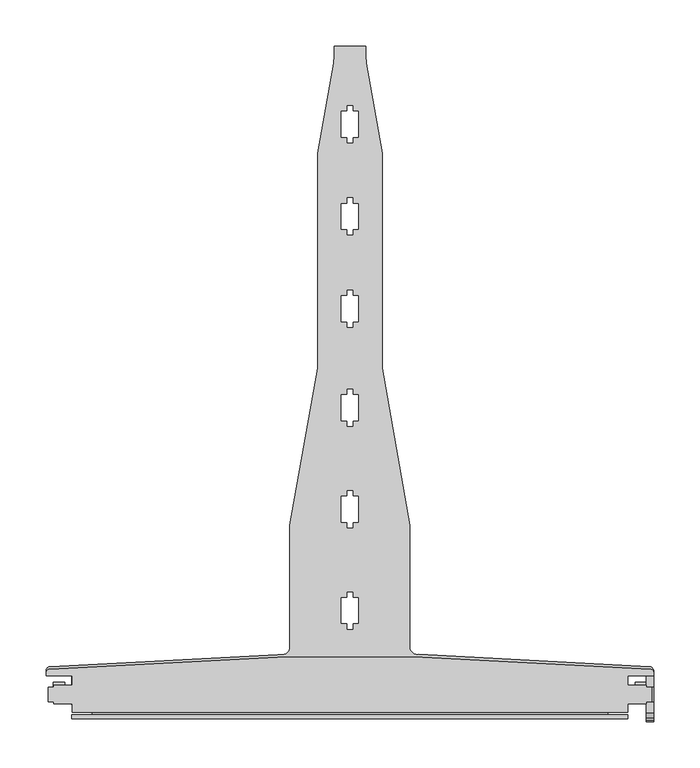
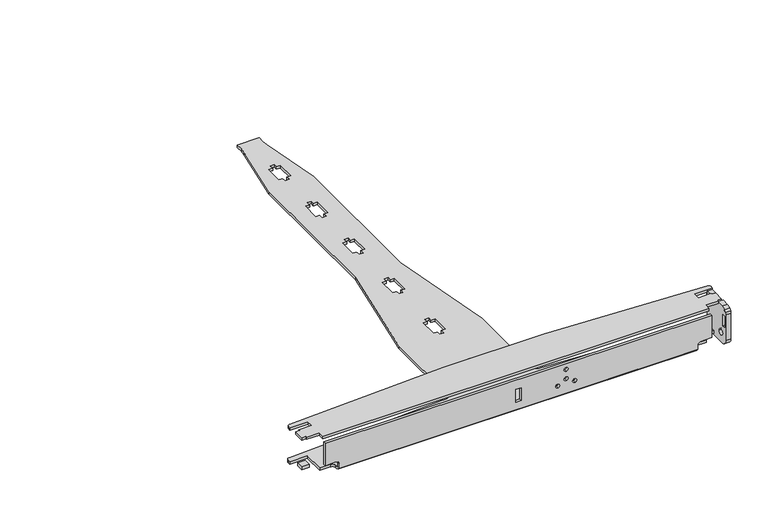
"""IFC4 building model written with IfcOpenShell, lengths in millimetres: proxy geometry, d&b SL-Series XSLi SUB Mounting Frame : XSLi SUB Mounting Frame."""

from ifc_helpers import new_model, si_unit, point, frame, frame_2d, origin, place, context, project, spatial, polyline, circle_curve, trimmed, segment, composite_curve, outline, extrude, source, transform, mapped, element, save
from ifc_brep_helpers import plane_surface, cylinder_surface, revolved_surface, advanced_brep


def communication_devices_f2b9ca2b(model_context):
    return source(origin(), model_context, "Body", "SolidModel", [
        advanced_brep(
        [(279.5, -3.0, -13.5), (-279.5, -3.0, -13.5), (-279.5, 0.0, -13.5), (-284.5, 5.0, -13.5), (-301.5, 5.0, -13.5), (-301.5, 37.5, -13.5), (-329.5, 37.5, -13.5), (-329.5, 41.5910151, -13.5), (-324.7616798, 46.5841628, -13.5), (-78.3128241, 59.5, -13.5), (-73.0, 59.5, -13.5), (-65.0, 67.5, -13.5), (-65.0, 200.0, -13.5), (-35.0, 370.1384546, -13.5), (-35.0, 603.0424941, -13.5), (-17.7596123, 700.8175911, -13.5), (-17.0, 709.5, -13.5), (-17.0, 719.5, -13.5), (17.0, 719.5, -13.5), (17.0, 709.5, -13.5), (17.7596123, 700.8175911, -13.5), (35.0, 603.0424941, -13.5), (35.0, 370.1384546, -13.5), (65.0, 200.0, -13.5), (65.0, 67.5, -13.5), (74.7244138, 59.6880606, -13.5), (324.7616798, 46.5841628, -13.5), (329.5, 41.5910151, -13.5), (329.5, 37.5, -13.5), (301.5, 37.5, -13.5), (301.5, 5.0, -13.5), (284.5, 5.0, -13.5), (279.5, 0.0, -13.5), (-3.0, 341.25, -13.5), (-9.25, 341.25, -13.5), (-9.25, 313.25, -13.5), (-3.0, 313.25, -13.5), (-3.0, 307.25, -13.5), (3.0, 307.25, -13.5), (3.0, 313.25, -13.5), (9.25, 313.25, -13.5), (9.25, 341.25, -13.5), (3.0, 341.25, -13.5), (3.0, 347.25, -13.5), (-3.0, 347.25, -13.5), (-3.0, 231.25, -13.5), (-9.25, 231.25, -13.5), (-9.25, 203.25, -13.5), (-3.0, 203.25, -13.5), (-3.0, 197.25, -13.5), (3.0, 197.25, -13.5), (3.0, 203.25, -13.5), (9.25, 203.25, -13.5), (9.25, 231.25, -13.5), (3.0, 231.25, -13.5), (3.0, 237.25, -13.5), (-3.0, 237.25, -13.5), (-3.0, 121.25, -13.5), (-9.25, 121.25, -13.5), (-9.25, 93.25, -13.5), (-3.0, 93.25, -13.5), (-3.0, 87.25, -13.5), (3.0, 87.25, -13.5), (3.0, 93.25, -13.5), (9.25, 93.25, -13.5), (9.25, 121.25, -13.5), (3.0, 121.25, -13.5), (3.0, 127.25, -13.5), (-3.0, 127.25, -13.5), (-3.0, 648.75, -13.5), (-9.25, 648.75, -13.5), (-9.25, 620.75, -13.5), (-3.0, 620.75, -13.5), (-3.0, 614.75, -13.5), (3.0, 614.75, -13.5), (3.0, 620.75, -13.5), (9.25, 620.75, -13.5), (9.25, 648.75, -13.5), (3.0, 648.75, -13.5), (3.0, 654.75, -13.5), (-3.0, 654.75, -13.5), (-3.0, 548.75, -13.5), (-9.25, 548.75, -13.5), (-9.25, 520.75, -13.5), (-3.0, 520.75, -13.5), (-3.0, 514.75, -13.5), (3.0, 514.75, -13.5), (3.0, 520.75, -13.5), (9.25, 520.75, -13.5), (9.25, 548.75, -13.5), (3.0, 548.75, -13.5), (3.0, 554.75, -13.5), (-3.0, 554.75, -13.5), (-3.0, 448.75, -13.5), (-9.25, 448.75, -13.5), (-9.25, 420.75, -13.5), (-3.0, 420.75, -13.5), (-3.0, 414.75, -13.5), (3.0, 414.75, -13.5), (3.0, 420.75, -13.5), (9.25, 420.75, -13.5), (9.25, 448.75, -13.5), (3.0, 448.75, -13.5), (3.0, 454.75, -13.5), (-3.0, 454.75, -13.5), (279.5, -3.0, -9.5), (279.5, 0.0, -9.5), (284.5, 5.0, -9.5), (301.5, 5.0, -9.5), (301.5, 37.5, -9.5), (329.5, 37.5, -9.5), (329.5, 41.5910151, -9.5), (324.7616798, 46.5841628, -9.5), (74.7244138, 59.6880606, -9.5), (65.0, 67.5, -9.5), (65.0, 200.0, -9.5), (35.0, 370.1384546, -9.5), (35.0, 603.0424941, -9.5), (17.7596123, 700.8175911, -9.5), (17.0, 709.5, -9.5), (17.0, 719.5, -9.5), (-17.0, 719.5, -9.5), (-17.0, 709.5, -9.5), (-17.7596123, 700.8175911, -9.5), (-35.0, 603.0424941, -9.5), (-35.0, 370.1384546, -9.5), (-65.0, 200.0, -9.5), (-65.0, 67.5, -9.5), (-73.0, 59.5, -9.5), (-78.3128241, 59.5, -9.5), (-324.7616798, 46.5841628, -9.5), (-329.5, 41.5910151, -9.5), (-329.5, 37.5, -9.5), (-301.5, 37.5, -9.5), (-301.5, 5.0, -9.5), (-284.5, 5.0, -9.5), (-279.5, 0.0, -9.5), (-279.5, -3.0, -9.5), (-3.0, 341.25, -9.5), (-3.0, 347.25, -9.5), (3.0, 347.25, -9.5), (3.0, 341.25, -9.5), (9.25, 341.25, -9.5), (9.25, 313.25, -9.5), (3.0, 313.25, -9.5), (3.0, 307.25, -9.5), (-3.0, 307.25, -9.5), (-3.0, 313.25, -9.5), (-9.25, 313.25, -9.5), (-9.25, 341.25, -9.5), (-3.0, 231.25, -9.5), (-3.0, 237.25, -9.5), (3.0, 237.25, -9.5), (3.0, 231.25, -9.5), (9.25, 231.25, -9.5), (9.25, 203.25, -9.5), (3.0, 203.25, -9.5), (3.0, 197.25, -9.5), (-3.0, 197.25, -9.5), (-3.0, 203.25, -9.5), (-9.25, 203.25, -9.5), (-9.25, 231.25, -9.5), (-3.0, 121.25, -9.5), (-3.0, 127.25, -9.5), (3.0, 127.25, -9.5), (3.0, 121.25, -9.5), (9.25, 121.25, -9.5), (9.25, 93.25, -9.5), (3.0, 93.25, -9.5), (3.0, 87.25, -9.5), (-3.0, 87.25, -9.5), (-3.0, 93.25, -9.5), (-9.25, 93.25, -9.5), (-9.25, 121.25, -9.5), (-3.0, 648.75, -9.5), (-3.0, 654.75, -9.5), (3.0, 654.75, -9.5), (3.0, 648.75, -9.5), (9.25, 648.75, -9.5), (9.25, 620.75, -9.5), (3.0, 620.75, -9.5), (3.0, 614.75, -9.5), (-3.0, 614.75, -9.5), (-3.0, 620.75, -9.5), (-9.25, 620.75, -9.5), (-9.25, 648.75, -9.5), (-3.0, 548.75, -9.5), (-3.0, 554.75, -9.5), (3.0, 554.75, -9.5), (3.0, 548.75, -9.5), (9.25, 548.75, -9.5), (9.25, 520.75, -9.5), (3.0, 520.75, -9.5), (3.0, 514.75, -9.5), (-3.0, 514.75, -9.5), (-3.0, 520.75, -9.5), (-9.25, 520.75, -9.5), (-9.25, 548.75, -9.5), (-3.0, 448.75, -9.5), (-3.0, 454.75, -9.5), (3.0, 454.75, -9.5), (3.0, 448.75, -9.5), (9.25, 448.75, -9.5), (9.25, 420.75, -9.5), (3.0, 420.75, -9.5), (3.0, 414.75, -9.5), (-3.0, 414.75, -9.5), (-3.0, 420.75, -9.5), (-9.25, 420.75, -9.5), (-9.25, 448.75, -9.5), (-301.5, -10.0, 40.5), (-301.5, -10.0, 3.5), (-284.5, -10.0, 3.5), (-279.5, -10.0, -1.5), (-279.5, -10.0, -8.5), (279.5, -10.0, -8.5), (279.5, -10.0, -1.5), (284.5, -10.0, 3.5), (301.5, -10.0, 3.5), (301.5, -10.0, 40.5), (74.4934506, -10.0, 27.5877903), (74.4934506, -10.0, 33.6005195), (74.4934506, -10.0, 12.1878093), (74.4934506, -10.0, 18.2005386), (61.1905696, -10.0, 4.6096843), (61.1905696, -10.0, 10.6224136), (87.7963317, -10.0, 4.6096843), (87.7963317, -10.0, 10.6224136), (4.25, -10.0, 25.0), (4.25, -10.0, 4.0), (-4.25, -10.0, 4.0), (-4.25, -10.0, 25.0), (-301.5, -6.0, 40.5), (301.5, -6.0, 40.5), (301.5, -6.0, 3.5), (284.5, -6.0, 3.5), (279.5, -6.0, -1.5), (279.5, -6.0, -8.5), (-279.5, -6.0, -8.5), (-279.5, -6.0, -1.5), (-284.5, -6.0, 3.5), (-301.5, -6.0, 3.5), (74.4934506, -6.0, 27.5877903), (74.4934506, -6.0, 33.6005195), (74.4934506, -6.0, 12.1878093), (74.4934506, -6.0, 18.2005386), (61.1905696, -6.0, 4.6096843), (61.1905696, -6.0, 10.6224136), (87.7963317, -6.0, 4.6096843), (87.7963317, -6.0, 10.6224136), (4.25, -6.0, 25.0), (-4.25, -6.0, 25.0), (-4.25, -6.0, 4.0), (4.25, -6.0, 4.0), (279.5, -3.0, -12.5), (-279.5, -3.0, -12.5), (-279.5, -3.0, -8.5), (279.5, -3.0, -8.5)],
        [
            (0, 1),
            (1, 2),
            (2, 3, circle_curve(frame((-284.5, 0.0, -13.5), z_axis=(0.0, 0.0, 1.0), x_axis=(-1.0, 0.0, 0.0)), 5.0)),
            (3, 4),
            (4, 5),
            (5, 6),
            (6, 7),
            (7, 8, circle_curve(frame((-324.5, 41.5910151, -13.5), z_axis=(0.0, 0.0, -1.0), x_axis=(-1.0, 0.0, 0.0)), 5.0)),
            (8, 9),
            (9, 10),
            (10, 11, circle_curve(frame((-73.0, 67.5, -13.5), z_axis=(0.0, 0.0, 1.0), x_axis=(-1.0, 0.0, 0.0)), 8.0)),
            (11, 12),
            (12, 13),
            (13, 14),
            (14, 15),
            (15, 16, circle_curve(frame((-67.0, 709.5, -13.5), z_axis=(0.0, 0.0, 1.0), x_axis=(-1.0, 0.0, 0.0)), 50.0)),
            (16, 17),
            (17, 18),
            (18, 19),
            (19, 20, circle_curve(frame((67.0, 709.5, -13.5), z_axis=(0.0, 0.0, 1.0), x_axis=(-1.0, 0.0, 0.0)), 50.0)),
            (20, 21),
            (21, 22),
            (22, 23),
            (23, 24),
            (24, 25, circle_curve(frame((73.0, 67.5, -13.5), z_axis=(0.0, 0.0, 1.0), x_axis=(-1.0, 0.0, 0.0)), 8.0)),
            (25, 26),
            (26, 27, circle_curve(frame((324.5, 41.5910151, -13.5), z_axis=(0.0, 0.0, -1.0), x_axis=(-1.0, 0.0, 0.0)), 5.0)),
            (27, 28),
            (28, 29),
            (29, 30),
            (30, 31),
            (31, 32, circle_curve(frame((284.5, 0.0, -13.5), z_axis=(0.0, 0.0, 1.0), x_axis=(-1.0, 0.0, 0.0)), 5.0)),
            (32, 0),
            (33, 34),
            (34, 35),
            (35, 36),
            (36, 37),
            (37, 38),
            (38, 39),
            (39, 40),
            (40, 41),
            (41, 42),
            (42, 43),
            (43, 44),
            (44, 33),
            (45, 46),
            (46, 47),
            (47, 48),
            (48, 49),
            (49, 50),
            (50, 51),
            (51, 52),
            (52, 53),
            (53, 54),
            (54, 55),
            (55, 56),
            (56, 45),
            (57, 58),
            (58, 59),
            (59, 60),
            (60, 61),
            (61, 62),
            (62, 63),
            (63, 64),
            (64, 65),
            (65, 66),
            (66, 67),
            (67, 68),
            (68, 57),
            (69, 70),
            (70, 71),
            (71, 72),
            (72, 73),
            (73, 74),
            (74, 75),
            (75, 76),
            (76, 77),
            (77, 78),
            (78, 79),
            (79, 80),
            (80, 69),
            (81, 82),
            (82, 83),
            (83, 84),
            (84, 85),
            (85, 86),
            (86, 87),
            (87, 88),
            (88, 89),
            (89, 90),
            (90, 91),
            (91, 92),
            (92, 81),
            (93, 94),
            (94, 95),
            (95, 96),
            (96, 97),
            (97, 98),
            (98, 99),
            (99, 100),
            (100, 101),
            (101, 102),
            (102, 103),
            (103, 104),
            (104, 93),
            (105, 106),
            (106, 107, circle_curve(frame((284.5, 0.0, -9.5), z_axis=(0.0, 0.0, -1.0), x_axis=(-1.0, 0.0, 0.0)), 5.0)),
            (107, 108),
            (108, 109),
            (109, 110),
            (110, 111),
            (111, 112, circle_curve(frame((324.5, 41.5910151, -9.5), z_axis=(0.0, 0.0, 1.0), x_axis=(-1.0, 0.0, 0.0)), 5.0)),
            (112, 113),
            (113, 114, circle_curve(frame((73.0, 67.5, -9.5), z_axis=(0.0, 0.0, -1.0), x_axis=(-1.0, 0.0, 0.0)), 8.0)),
            (114, 115),
            (115, 116),
            (116, 117),
            (117, 118),
            (118, 119, circle_curve(frame((67.0, 709.5, -9.5), z_axis=(0.0, 0.0, -1.0), x_axis=(-1.0, 0.0, 0.0)), 50.0)),
            (119, 120),
            (120, 121),
            (121, 122),
            (122, 123, circle_curve(frame((-67.0, 709.5, -9.5), z_axis=(0.0, 0.0, -1.0), x_axis=(-1.0, 0.0, 0.0)), 50.0)),
            (123, 124),
            (124, 125),
            (125, 126),
            (126, 127),
            (127, 128, circle_curve(frame((-73.0, 67.5, -9.5), z_axis=(0.0, 0.0, -1.0), x_axis=(-1.0, 0.0, 0.0)), 8.0)),
            (128, 129),
            (129, 130),
            (130, 131, circle_curve(frame((-324.5, 41.5910151, -9.5), z_axis=(0.0, 0.0, 1.0), x_axis=(-1.0, 0.0, 0.0)), 5.0)),
            (131, 132),
            (132, 133),
            (133, 134),
            (134, 135),
            (135, 136, circle_curve(frame((-284.5, 0.0, -9.5), z_axis=(0.0, 0.0, -1.0), x_axis=(-1.0, 0.0, 0.0)), 5.0)),
            (136, 137),
            (137, 105),
            (138, 139),
            (139, 140),
            (140, 141),
            (141, 142),
            (142, 143),
            (143, 144),
            (144, 145),
            (145, 146),
            (146, 147),
            (147, 148),
            (148, 149),
            (149, 138),
            (150, 151),
            (151, 152),
            (152, 153),
            (153, 154),
            (154, 155),
            (155, 156),
            (156, 157),
            (157, 158),
            (158, 159),
            (159, 160),
            (160, 161),
            (161, 150),
            (162, 163),
            (163, 164),
            (164, 165),
            (165, 166),
            (166, 167),
            (167, 168),
            (168, 169),
            (169, 170),
            (170, 171),
            (171, 172),
            (172, 173),
            (173, 162),
            (174, 175),
            (175, 176),
            (176, 177),
            (177, 178),
            (178, 179),
            (179, 180),
            (180, 181),
            (181, 182),
            (182, 183),
            (183, 184),
            (184, 185),
            (185, 174),
            (186, 187),
            (187, 188),
            (188, 189),
            (189, 190),
            (190, 191),
            (191, 192),
            (192, 193),
            (193, 194),
            (194, 195),
            (195, 196),
            (196, 197),
            (197, 186),
            (198, 199),
            (199, 200),
            (200, 201),
            (201, 202),
            (202, 203),
            (203, 204),
            (204, 205),
            (205, 206),
            (206, 207),
            (207, 208),
            (208, 209),
            (209, 198),
            (210, 211),
            (211, 212),
            (212, 213, circle_curve(frame((-284.5, -10.0, -1.5), z_axis=(0.0, 1.0, 0.0), x_axis=(0.0, 0.0, 1.0)), 5.0)),
            (213, 214),
            (214, 215),
            (215, 216),
            (216, 217, circle_curve(frame((284.5, -10.0, -1.5), z_axis=(0.0, 1.0, 0.0), x_axis=(0.0, 0.0, 1.0)), 5.0)),
            (217, 218),
            (218, 219),
            (219, 210),
            (220, 221, circle_curve(frame((74.4934506, -10.0, 30.5941549), z_axis=(0.0, 1.0, 0.0), x_axis=(0.0, 0.0, 1.0)), 3.0063646)),
            (221, 220, circle_curve(frame((74.4934506, -10.0, 30.5941549), z_axis=(0.0, 1.0, 0.0), x_axis=(0.0, 0.0, 1.0)), 3.0063646)),
            (222, 223, circle_curve(frame((74.4934506, -10.0, 15.194174), z_axis=(0.0, 1.0, 0.0), x_axis=(0.0, 0.0, 1.0)), 3.0063646)),
            (223, 222, circle_curve(frame((74.4934506, -10.0, 15.194174), z_axis=(0.0, 1.0, 0.0), x_axis=(0.0, 0.0, 1.0)), 3.0063646)),
            (224, 225, circle_curve(frame((61.1905696, -10.0, 7.616049), z_axis=(0.0, 1.0, 0.0), x_axis=(0.0, 0.0, 1.0)), 3.0063646)),
            (225, 224, circle_curve(frame((61.1905696, -10.0, 7.616049), z_axis=(0.0, 1.0, 0.0), x_axis=(0.0, 0.0, 1.0)), 3.0063646)),
            (226, 227, circle_curve(frame((87.7963317, -10.0, 7.616049), z_axis=(0.0, 1.0, 0.0), x_axis=(0.0, 0.0, 1.0)), 3.0063646)),
            (227, 226, circle_curve(frame((87.7963317, -10.0, 7.616049), z_axis=(0.0, 1.0, 0.0), x_axis=(0.0, 0.0, 1.0)), 3.0063646)),
            (228, 229),
            (229, 230),
            (230, 231),
            (231, 228),
            (232, 233),
            (233, 234),
            (234, 235),
            (235, 236, circle_curve(frame((284.5, -6.0, -1.5), z_axis=(0.0, -1.0, 0.0), x_axis=(0.0, 0.0, 1.0)), 5.0)),
            (236, 237),
            (237, 238),
            (238, 239),
            (239, 240, circle_curve(frame((-284.5, -6.0, -1.5), z_axis=(0.0, -1.0, 0.0), x_axis=(0.0, 0.0, 1.0)), 5.0)),
            (240, 241),
            (241, 232),
            (242, 243, circle_curve(frame((74.4934506, -6.0, 30.5941549), z_axis=(0.0, -1.0, 0.0), x_axis=(0.0, 0.0, 1.0)), 3.0063646)),
            (243, 242, circle_curve(frame((74.4934506, -6.0, 30.5941549), z_axis=(0.0, -1.0, 0.0), x_axis=(0.0, 0.0, 1.0)), 3.0063646)),
            (244, 245, circle_curve(frame((74.4934506, -6.0, 15.194174), z_axis=(0.0, -1.0, 0.0), x_axis=(0.0, 0.0, 1.0)), 3.0063646)),
            (245, 244, circle_curve(frame((74.4934506, -6.0, 15.194174), z_axis=(0.0, -1.0, 0.0), x_axis=(0.0, 0.0, 1.0)), 3.0063646)),
            (246, 247, circle_curve(frame((61.1905696, -6.0, 7.616049), z_axis=(0.0, -1.0, 0.0), x_axis=(0.0, 0.0, 1.0)), 3.0063646)),
            (247, 246, circle_curve(frame((61.1905696, -6.0, 7.616049), z_axis=(0.0, -1.0, 0.0), x_axis=(0.0, 0.0, 1.0)), 3.0063646)),
            (248, 249, circle_curve(frame((87.7963317, -6.0, 7.616049), z_axis=(0.0, -1.0, 0.0), x_axis=(0.0, 0.0, 1.0)), 3.0063646)),
            (249, 248, circle_curve(frame((87.7963317, -6.0, 7.616049), z_axis=(0.0, -1.0, 0.0), x_axis=(0.0, 0.0, 1.0)), 3.0063646)),
            (250, 251),
            (251, 252),
            (252, 253),
            (253, 250),
            (210, 232),
            (241, 211),
            (218, 234),
            (233, 219),
            (240, 212),
            (239, 213),
            (216, 236),
            (235, 217),
            (254, 215, circle_curve(frame((279.5, -2.6001882, -3.6753294), z_axis=(-1.0, 0.0, 0.0), x_axis=(0.0, -1.0, 0.0)), 8.833723)),
            (214, 255, circle_curve(frame((-279.5, -2.6001882, -3.6753294), z_axis=(1.0, 0.0, 0.0), x_axis=(0.0, -1.0, 0.0)), 8.833723)),
            (255, 254),
            (256, 257),
            (257, 105),
            (137, 256),
            (256, 238),
            (237, 257),
            (0, 254),
            (255, 1),
            (220, 242),
            (243, 221),
            (222, 244),
            (245, 223),
            (224, 246),
            (247, 225),
            (226, 248),
            (249, 227),
            (25, 113),
            (112, 26),
            (24, 114),
            (23, 115),
            (22, 116),
            (21, 117),
            (20, 118),
            (19, 119),
            (18, 120),
            (17, 121),
            (16, 122),
            (15, 123),
            (14, 124),
            (13, 125),
            (12, 126),
            (11, 127),
            (10, 128),
            (9, 129),
            (8, 130),
            (33, 138),
            (149, 34),
            (148, 35),
            (147, 36),
            (146, 37),
            (145, 38),
            (144, 39),
            (143, 40),
            (142, 41),
            (141, 42),
            (140, 43),
            (139, 44),
            (56, 151),
            (150, 45),
            (55, 152),
            (54, 153),
            (53, 154),
            (52, 155),
            (51, 156),
            (50, 157),
            (49, 158),
            (48, 159),
            (47, 160),
            (46, 161),
            (68, 163),
            (162, 57),
            (67, 164),
            (66, 165),
            (65, 166),
            (64, 167),
            (63, 168),
            (62, 169),
            (61, 170),
            (60, 171),
            (59, 172),
            (58, 173),
            (80, 175),
            (174, 69),
            (79, 176),
            (78, 177),
            (77, 178),
            (76, 179),
            (75, 180),
            (74, 181),
            (73, 182),
            (72, 183),
            (71, 184),
            (70, 185),
            (92, 187),
            (186, 81),
            (91, 188),
            (90, 189),
            (89, 190),
            (88, 191),
            (87, 192),
            (86, 193),
            (85, 194),
            (84, 195),
            (83, 196),
            (82, 197),
            (104, 199),
            (198, 93),
            (103, 200),
            (102, 201),
            (101, 202),
            (100, 203),
            (99, 204),
            (98, 205),
            (97, 206),
            (96, 207),
            (95, 208),
            (94, 209),
            (28, 110),
            (109, 29),
            (27, 111),
            (108, 30),
            (7, 131),
            (6, 132),
            (5, 133),
            (4, 134),
            (228, 250),
            (253, 229),
            (252, 230),
            (251, 231),
            (3, 135),
            (2, 136),
            (32, 106),
            (31, 107),
        ],
        [
            plane_surface(frame((279.5, -10.0, -13.5), z_axis=(0.0, 0.0, -1.0), x_axis=(0.0, -1.0, 0.0))),
            plane_surface(frame((279.5, -10.0, -9.5), z_axis=(0.0, 0.0, 1.0), x_axis=(0.0, 1.0, 0.0))),
            plane_surface(frame((-301.5, -10.0, -15.0), z_axis=(0.0, -1.0, 0.0), x_axis=(0.0, 0.0, -1.0))),
            plane_surface(frame((-301.5, -6.0, -15.0), z_axis=(0.0, 1.0, 0.0), x_axis=(0.0, 0.0, 1.0))),
            plane_surface(frame((-301.5, -10.0, 40.5), z_axis=(-1.0, 0.0, 0.0), x_axis=(0.0, 1.0, 0.0))),
            plane_surface(frame((301.5, -10.0, 3.5), z_axis=(1.0, 0.0, 0.0), x_axis=(0.0, 1.0, 0.0))),
            plane_surface(frame((301.5, -10.0, 40.5), z_axis=(0.0, 0.0, 1.0), x_axis=(0.0, 1.0, 0.0))),
            plane_surface(frame((-301.5, -10.0, 3.5), z_axis=(0.0, 0.0, -1.0), x_axis=(0.0, 1.0, 0.0))),
            revolved_surface(polyline([(-284.5, -6.0, 3.5), (-284.5, -10.0, 3.5)]), (-284.5, -6.0, -1.5), (0.0, 1.0, 0.0)),
            revolved_surface(polyline([(284.5, -6.0, 3.5), (284.5, -10.0, 3.5)]), (284.5, -6.0, -1.5), (0.0, 1.0, 0.0)),
            plane_surface(frame((284.5, -10.0, 3.5), z_axis=(0.0, 0.0, -1.0), x_axis=(0.0, 1.0, 0.0))),
            cylinder_surface(frame((-279.5, -2.6001882, -3.6753294), z_axis=(1.0, 0.0, 0.0), x_axis=(0.0, -1.0, 0.0)), 8.833723),
            plane_surface(frame((279.5, -3.0, -12.5), z_axis=(0.0, 1.0, 0.0), x_axis=(-1.0, 0.0, 0.0))),
            plane_surface(frame((279.5, -3.0, -8.5), z_axis=(0.0, 0.0, 1.0), x_axis=(-1.0, 0.0, 0.0))),
            plane_surface(frame((-279.5, -3.0, -9.5), z_axis=(0.0, -1.0, 0.0), x_axis=(0.0, 0.0, -1.0))),
            revolved_surface(polyline([(74.4934506, -6.0, 33.6005195), (74.4934506, -10.0, 33.6005195)]), (74.4934506, -10.0, 30.5941549), (0.0, 1.0, 0.0)),
            revolved_surface(polyline([(74.4934506, -6.0, 18.2005386), (74.4934506, -10.0, 18.2005386)]), (74.4934506, -10.0, 15.194174), (0.0, 1.0, 0.0)),
            revolved_surface(polyline([(61.1905696, -6.0, 10.6224136), (61.1905696, -10.0, 10.6224136)]), (61.1905696, -10.0, 7.616049), (0.0, 1.0, 0.0)),
            revolved_surface(polyline([(87.7963317, -6.0, 10.6224136), (87.7963317, -10.0, 10.6224136)]), (87.7963317, -10.0, 7.616049), (0.0, 1.0, 0.0)),
            plane_surface(frame((324.7616798, 46.5841628, -9.5), z_axis=(0.052335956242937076, 0.9986295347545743, 0.0), x_axis=(0.0, 0.0, -1.0))),
            revolved_surface(polyline([(65.0, 67.5, -13.5), (65.0, 67.5, -9.5)]), (73.0, 67.5, -13.5), (0.0, 0.0, -1.0)),
            plane_surface(frame((65.0, 67.5, -9.5), z_axis=(1.0, 0.0, 0.0), x_axis=(0.0, 0.0, -1.0))),
            plane_surface(frame((65.0, 200.0, -9.5), z_axis=(0.9848077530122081, 0.17364817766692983, 0.0), x_axis=(0.0, 0.0, -1.0))),
            plane_surface(frame((35.0, 370.1384546, -9.5), z_axis=(1.0, 0.0, 0.0), x_axis=(0.0, 0.0, -1.0))),
            plane_surface(frame((35.0, 603.0424941, -9.5), z_axis=(0.9848077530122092, 0.1736481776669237, 0.0), x_axis=(0.0, 0.0, -1.0))),
            revolved_surface(polyline([(17.0, 709.5, -13.5), (17.0, 709.5, -9.5)]), (67.0, 709.5, -13.5), (0.0, 0.0, -1.0)),
            plane_surface(frame((17.0, 709.5, -9.5), z_axis=(1.0, 0.0, 0.0), x_axis=(0.0, 0.0, -1.0))),
            plane_surface(frame((17.0, 719.5, -9.5), z_axis=(0.0, 1.0, 0.0), x_axis=(0.0, 0.0, -1.0))),
            plane_surface(frame((-17.0, 719.5, -9.5), z_axis=(-1.0, 0.0, 0.0), x_axis=(0.0, 0.0, -1.0))),
            revolved_surface(polyline([(-117.0, 709.5, -13.5), (-117.0, 709.5, -9.5)]), (-67.0, 709.5, -13.5), (0.0, 0.0, -1.0)),
            plane_surface(frame((-17.7596123, 700.8175911, -9.5), z_axis=(-0.9848077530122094, 0.17364817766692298, 0.0), x_axis=(0.0, 0.0, -1.0))),
            plane_surface(frame((-35.0, 603.0424941, -9.5), z_axis=(-1.0, 0.0, 0.0), x_axis=(0.0, 0.0, -1.0))),
            plane_surface(frame((-35.0, 370.1384546, -9.5), z_axis=(-0.9848077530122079, 0.17364817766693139, 0.0), x_axis=(0.0, 0.0, -1.0))),
            plane_surface(frame((-65.0, 200.0, -9.5), z_axis=(-1.0, 0.0, 0.0), x_axis=(0.0, 0.0, -1.0))),
            revolved_surface(polyline([(-81.0, 67.5, -13.5), (-81.0, 67.5, -9.5)]), (-73.0, 67.5, -13.5), (0.0, 0.0, -1.0)),
            plane_surface(frame((-73.0, 59.5, -9.5), z_axis=(0.0, 1.0, 0.0), x_axis=(0.0, 0.0, -1.0))),
            plane_surface(frame((-78.3128241, 59.5, -9.5), z_axis=(-0.052335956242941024, 0.998629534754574, 0.0), x_axis=(0.0, 0.0, -1.0))),
            plane_surface(frame((-9.25, 341.25, -9.5), z_axis=(0.0, -1.0, 0.0), x_axis=(0.0, 0.0, -1.0))),
            plane_surface(frame((-9.25, 313.25, -9.5), z_axis=(1.0, 0.0, 0.0), x_axis=(0.0, 0.0, -1.0))),
            plane_surface(frame((-3.0, 313.25, -9.5), z_axis=(0.0, 1.0, 0.0), x_axis=(0.0, 0.0, -1.0))),
            plane_surface(frame((-3.0, 307.25, -9.5), z_axis=(1.0, 0.0, 0.0), x_axis=(0.0, 0.0, -1.0))),
            plane_surface(frame((3.0, 307.25, -9.5), z_axis=(0.0, 1.0, 0.0), x_axis=(0.0, 0.0, -1.0))),
            plane_surface(frame((3.0, 313.25, -9.5), z_axis=(-1.0, 0.0, 0.0), x_axis=(0.0, 0.0, -1.0))),
            plane_surface(frame((9.25, 313.25, -9.5), z_axis=(0.0, 1.0, 0.0), x_axis=(0.0, 0.0, -1.0))),
            plane_surface(frame((9.25, 341.25, -9.5), z_axis=(-1.0, 0.0, 0.0), x_axis=(0.0, 0.0, -1.0))),
            plane_surface(frame((3.0, 341.25, -9.5), z_axis=(0.0, -1.0, 0.0), x_axis=(0.0, 0.0, -1.0))),
            plane_surface(frame((3.0, 347.25, -9.5), z_axis=(-1.0, 0.0, 0.0), x_axis=(0.0, 0.0, -1.0))),
            plane_surface(frame((-3.0, 347.25, -9.5), z_axis=(0.0, -1.0, 0.0), x_axis=(0.0, 0.0, -1.0))),
            plane_surface(frame((-3.0, 341.25, -9.5), z_axis=(1.0, 0.0, 0.0), x_axis=(0.0, 0.0, -1.0))),
            plane_surface(frame((-3.0, 231.25, -9.5), z_axis=(1.0, 0.0, 0.0), x_axis=(0.0, 0.0, -1.0))),
            plane_surface(frame((-3.0, 237.25, -9.5), z_axis=(0.0, -1.0, 0.0), x_axis=(0.0, 0.0, -1.0))),
            plane_surface(frame((3.0, 237.25, -9.5), z_axis=(-1.0, 0.0, 0.0), x_axis=(0.0, 0.0, -1.0))),
            plane_surface(frame((3.0, 231.25, -9.5), z_axis=(0.0, -1.0, 0.0), x_axis=(0.0, 0.0, -1.0))),
            plane_surface(frame((9.25, 231.25, -9.5), z_axis=(-1.0, 0.0, 0.0), x_axis=(0.0, 0.0, -1.0))),
            plane_surface(frame((9.25, 203.25, -9.5), z_axis=(0.0, 1.0, 0.0), x_axis=(0.0, 0.0, -1.0))),
            plane_surface(frame((3.0, 203.25, -9.5), z_axis=(-1.0, 0.0, 0.0), x_axis=(0.0, 0.0, -1.0))),
            plane_surface(frame((3.0, 197.25, -9.5), z_axis=(0.0, 1.0, 0.0), x_axis=(0.0, 0.0, -1.0))),
            plane_surface(frame((-3.0, 197.25, -9.5), z_axis=(1.0, 0.0, 0.0), x_axis=(0.0, 0.0, -1.0))),
            plane_surface(frame((-3.0, 203.25, -9.5), z_axis=(0.0, 1.0, 0.0), x_axis=(0.0, 0.0, -1.0))),
            plane_surface(frame((-9.25, 203.25, -9.5), z_axis=(1.0, 0.0, 0.0), x_axis=(0.0, 0.0, -1.0))),
            plane_surface(frame((-9.25, 231.25, -9.5), z_axis=(0.0, -1.0, 0.0), x_axis=(0.0, 0.0, -1.0))),
            plane_surface(frame((-3.0, 121.25, -9.5), z_axis=(1.0, 0.0, 0.0), x_axis=(0.0, 0.0, -1.0))),
            plane_surface(frame((-3.0, 127.25, -9.5), z_axis=(0.0, -1.0, 0.0), x_axis=(0.0, 0.0, -1.0))),
            plane_surface(frame((3.0, 127.25, -9.5), z_axis=(-1.0, 0.0, 0.0), x_axis=(0.0, 0.0, -1.0))),
            plane_surface(frame((3.0, 121.25, -9.5), z_axis=(0.0, -1.0, 0.0), x_axis=(0.0, 0.0, -1.0))),
            plane_surface(frame((9.25, 121.25, -9.5), z_axis=(-1.0, 0.0, 0.0), x_axis=(0.0, 0.0, -1.0))),
            plane_surface(frame((9.25, 93.25, -9.5), z_axis=(0.0, 1.0, 0.0), x_axis=(0.0, 0.0, -1.0))),
            plane_surface(frame((3.0, 93.25, -9.5), z_axis=(-1.0, 0.0, 0.0), x_axis=(0.0, 0.0, -1.0))),
            plane_surface(frame((3.0, 87.25, -9.5), z_axis=(0.0, 1.0, 0.0), x_axis=(0.0, 0.0, -1.0))),
            plane_surface(frame((-3.0, 87.25, -9.5), z_axis=(1.0, 0.0, 0.0), x_axis=(0.0, 0.0, -1.0))),
            plane_surface(frame((-3.0, 93.25, -9.5), z_axis=(0.0, 1.0, 0.0), x_axis=(0.0, 0.0, -1.0))),
            plane_surface(frame((-9.25, 93.25, -9.5), z_axis=(1.0, 0.0, 0.0), x_axis=(0.0, 0.0, -1.0))),
            plane_surface(frame((-9.25, 121.25, -9.5), z_axis=(0.0, -1.0, 0.0), x_axis=(0.0, 0.0, -1.0))),
            plane_surface(frame((-3.0, 648.75, -9.5), z_axis=(1.0, 0.0, 0.0), x_axis=(0.0, 0.0, -1.0))),
            plane_surface(frame((-3.0, 654.75, -9.5), z_axis=(0.0, -1.0, 0.0), x_axis=(0.0, 0.0, -1.0))),
            plane_surface(frame((3.0, 654.75, -9.5), z_axis=(-1.0, 0.0, 0.0), x_axis=(0.0, 0.0, -1.0))),
            plane_surface(frame((3.0, 648.75, -9.5), z_axis=(0.0, -1.0, 0.0), x_axis=(0.0, 0.0, -1.0))),
            plane_surface(frame((9.25, 648.75, -9.5), z_axis=(-1.0, 0.0, 0.0), x_axis=(0.0, 0.0, -1.0))),
            plane_surface(frame((9.25, 620.75, -9.5), z_axis=(0.0, 1.0, 0.0), x_axis=(0.0, 0.0, -1.0))),
            plane_surface(frame((3.0, 620.75, -9.5), z_axis=(-1.0, 0.0, 0.0), x_axis=(0.0, 0.0, -1.0))),
            plane_surface(frame((3.0, 614.75, -9.5), z_axis=(0.0, 1.0, 0.0), x_axis=(0.0, 0.0, -1.0))),
            plane_surface(frame((-3.0, 614.75, -9.5), z_axis=(1.0, 0.0, 0.0), x_axis=(0.0, 0.0, -1.0))),
            plane_surface(frame((-3.0, 620.75, -9.5), z_axis=(0.0, 1.0, 0.0), x_axis=(0.0, 0.0, -1.0))),
            plane_surface(frame((-9.25, 620.75, -9.5), z_axis=(1.0, 0.0, 0.0), x_axis=(0.0, 0.0, -1.0))),
            plane_surface(frame((-9.25, 648.75, -9.5), z_axis=(0.0, -1.0, 0.0), x_axis=(0.0, 0.0, -1.0))),
            plane_surface(frame((-3.0, 548.75, -9.5), z_axis=(1.0, 0.0, 0.0), x_axis=(0.0, 0.0, -1.0))),
            plane_surface(frame((-3.0, 554.75, -9.5), z_axis=(0.0, -1.0, 0.0), x_axis=(0.0, 0.0, -1.0))),
            plane_surface(frame((3.0, 554.75, -9.5), z_axis=(-1.0, 0.0, 0.0), x_axis=(0.0, 0.0, -1.0))),
            plane_surface(frame((3.0, 548.75, -9.5), z_axis=(0.0, -1.0, 0.0), x_axis=(0.0, 0.0, -1.0))),
            plane_surface(frame((9.25, 548.75, -9.5), z_axis=(-1.0, 0.0, 0.0), x_axis=(0.0, 0.0, -1.0))),
            plane_surface(frame((9.25, 520.75, -9.5), z_axis=(0.0, 1.0, 0.0), x_axis=(0.0, 0.0, -1.0))),
            plane_surface(frame((3.0, 520.75, -9.5), z_axis=(-1.0, 0.0, 0.0), x_axis=(0.0, 0.0, -1.0))),
            plane_surface(frame((3.0, 514.75, -9.5), z_axis=(0.0, 1.0, 0.0), x_axis=(0.0, 0.0, -1.0))),
            plane_surface(frame((-3.0, 514.75, -9.5), z_axis=(1.0, 0.0, 0.0), x_axis=(0.0, 0.0, -1.0))),
            plane_surface(frame((-3.0, 520.75, -9.5), z_axis=(0.0, 1.0, 0.0), x_axis=(0.0, 0.0, -1.0))),
            plane_surface(frame((-9.25, 520.75, -9.5), z_axis=(1.0, 0.0, 0.0), x_axis=(0.0, 0.0, -1.0))),
            plane_surface(frame((-9.25, 548.75, -9.5), z_axis=(0.0, -1.0, 0.0), x_axis=(0.0, 0.0, -1.0))),
            plane_surface(frame((-3.0, 448.75, -9.5), z_axis=(1.0, 0.0, 0.0), x_axis=(0.0, 0.0, -1.0))),
            plane_surface(frame((-3.0, 454.75, -9.5), z_axis=(0.0, -1.0, 0.0), x_axis=(0.0, 0.0, -1.0))),
            plane_surface(frame((3.0, 454.75, -9.5), z_axis=(-1.0, 0.0, 0.0), x_axis=(0.0, 0.0, -1.0))),
            plane_surface(frame((3.0, 448.75, -9.5), z_axis=(0.0, -1.0, 0.0), x_axis=(0.0, 0.0, -1.0))),
            plane_surface(frame((9.25, 448.75, -9.5), z_axis=(-1.0, 0.0, 0.0), x_axis=(0.0, 0.0, -1.0))),
            plane_surface(frame((9.25, 420.75, -9.5), z_axis=(0.0, 1.0, 0.0), x_axis=(0.0, 0.0, -1.0))),
            plane_surface(frame((3.0, 420.75, -9.5), z_axis=(-1.0, 0.0, 0.0), x_axis=(0.0, 0.0, -1.0))),
            plane_surface(frame((3.0, 414.75, -9.5), z_axis=(0.0, 1.0, 0.0), x_axis=(0.0, 0.0, -1.0))),
            plane_surface(frame((-3.0, 414.75, -9.5), z_axis=(1.0, 0.0, 0.0), x_axis=(0.0, 0.0, -1.0))),
            plane_surface(frame((-3.0, 420.75, -9.5), z_axis=(0.0, 1.0, 0.0), x_axis=(0.0, 0.0, -1.0))),
            plane_surface(frame((-9.25, 420.75, -9.5), z_axis=(1.0, 0.0, 0.0), x_axis=(0.0, 0.0, -1.0))),
            plane_surface(frame((-9.25, 448.75, -9.5), z_axis=(0.0, -1.0, 0.0), x_axis=(0.0, 0.0, -1.0))),
            plane_surface(frame((301.5, 37.5, -9.5), z_axis=(0.0, -1.0, 0.0), x_axis=(0.0, 0.0, -1.0))),
            plane_surface(frame((329.5, 37.5, -9.5), z_axis=(1.0, 0.0, 0.0), x_axis=(0.0, 0.0, -1.0))),
            cylinder_surface(frame((324.5, 41.5910151, -13.5), z_axis=(0.0, 0.0, 1.0), x_axis=(-1.0, 0.0, 0.0)), 5.0),
            plane_surface(frame((301.5, 5.0, -9.5), z_axis=(1.0, 0.0, 0.0), x_axis=(0.0, 0.0, -1.0))),
            cylinder_surface(frame((-324.5, 41.5910151, -13.5), z_axis=(0.0, 0.0, 1.0), x_axis=(-1.0, 0.0, 0.0)), 5.0),
            plane_surface(frame((-329.5, 41.5910151, -9.5), z_axis=(-1.0, 0.0, 0.0), x_axis=(0.0, 0.0, -1.0))),
            plane_surface(frame((-329.5, 37.5, -9.5), z_axis=(0.0, -1.0, 0.0), x_axis=(0.0, 0.0, -1.0))),
            plane_surface(frame((-301.5, 37.5, -9.5), z_axis=(-1.0, 0.0, 0.0), x_axis=(0.0, 0.0, -1.0))),
            plane_surface(frame((4.25, -10.0, 25.0), z_axis=(-1.0, 0.0, 0.0), x_axis=(0.0, 1.0, 0.0))),
            plane_surface(frame((4.25, -10.0, 4.0), z_axis=(0.0, 0.0, 1.0), x_axis=(0.0, 1.0, 0.0))),
            plane_surface(frame((-4.25, -10.0, 4.0), z_axis=(1.0, 0.0, 0.0), x_axis=(0.0, 1.0, 0.0))),
            plane_surface(frame((-4.25, -10.0, 25.0), z_axis=(0.0, 0.0, -1.0), x_axis=(0.0, 1.0, 0.0))),
            plane_surface(frame((-301.5, 5.0, -9.5), z_axis=(0.0, -1.0, 0.0), x_axis=(0.0, 0.0, -1.0))),
            revolved_surface(polyline([(-289.5, 0.0, -13.5), (-289.5, 0.0, -9.5)]), (-284.5, 0.0, -13.5), (0.0, 0.0, -1.0)),
            plane_surface(frame((-279.5, 0.0, -9.5), z_axis=(-1.0, 0.0, 0.0), x_axis=(0.0, 0.0, -1.0))),
            plane_surface(frame((279.5, -3.0, -9.5), z_axis=(1.0, 0.0, 0.0), x_axis=(0.0, 0.0, -1.0))),
            revolved_surface(polyline([(279.5, 0.0, -13.5), (279.5, 0.0, -9.5)]), (284.5, 0.0, -13.5), (0.0, 0.0, -1.0)),
            plane_surface(frame((284.5, 5.0, -9.5), z_axis=(0.0, -1.0, 0.0), x_axis=(0.0, 0.0, -1.0))),
        ],
        [
            (0, [[1, 2, 3, 4, 5, 6, 7, 8, 9, 10, 11, 12, 13, 14, 15, 16, 17, 18, 19, 20, 21, 22, 23, 24, 25, 26, 27, 28, 29, 30, 31, 32, 33], [34, 35, 36, 37, 38, 39, 40, 41, 42, 43, 44, 45], [46, 47, 48, 49, 50, 51, 52, 53, 54, 55, 56, 57], [58, 59, 60, 61, 62, 63, 64, 65, 66, 67, 68, 69], [70, 71, 72, 73, 74, 75, 76, 77, 78, 79, 80, 81], [82, 83, 84, 85, 86, 87, 88, 89, 90, 91, 92, 93], [94, 95, 96, 97, 98, 99, 100, 101, 102, 103, 104, 105]]),
            (1, [[106, 107, 108, 109, 110, 111, 112, 113, 114, 115, 116, 117, 118, 119, 120, 121, 122, 123, 124, 125, 126, 127, 128, 129, 130, 131, 132, 133, 134, 135, 136, 137, 138], [139, 140, 141, 142, 143, 144, 145, 146, 147, 148, 149, 150], [151, 152, 153, 154, 155, 156, 157, 158, 159, 160, 161, 162], [163, 164, 165, 166, 167, 168, 169, 170, 171, 172, 173, 174], [175, 176, 177, 178, 179, 180, 181, 182, 183, 184, 185, 186], [187, 188, 189, 190, 191, 192, 193, 194, 195, 196, 197, 198], [199, 200, 201, 202, 203, 204, 205, 206, 207, 208, 209, 210]]),
            (2, [[211, 212, 213, 214, 215, 216, 217, 218, 219, 220], [221, 222], [223, 224], [225, 226], [227, 228], [229, 230, 231, 232]]),
            (3, [[233, 234, 235, 236, 237, 238, 239, 240, 241, 242], [243, 244], [245, 246], [247, 248], [249, 250], [251, 252, 253, 254]]),
            (4, [[-211, 255, -242, 256]]),
            (5, [[-219, 257, -234, 258]]),
            (6, [[-220, -258, -233, -255]]),
            (7, [[-212, -256, -241, 259]]),
            (8, [[-213, -259, -240, 260]]),
            (9, [[-217, 261, -236, 262]]),
            (10, [[-218, -262, -235, -257]]),
            (11, [[263, -215, 264, 265]]),
            (12, [[266, 267, -138, 268]]),
            (13, [[-266, 269, -238, 270]]),
            (14, [[-1, 271, -265, 272]]),
            (15, [[-221, 273, -244, 274]]),
            (15, [[-222, -274, -243, -273]]),
            (16, [[-223, 275, -246, 276]]),
            (16, [[-224, -276, -245, -275]]),
            (17, [[-225, 277, -248, 278]]),
            (17, [[-226, -278, -247, -277]]),
            (18, [[-227, 279, -250, 280]]),
            (18, [[-228, -280, -249, -279]]),
            (19, [[-26, 281, -113, 282]]),
            (20, [[-25, 283, -114, -281]]),
            (21, [[-24, 284, -115, -283]]),
            (22, [[-23, 285, -116, -284]]),
            (23, [[-22, 286, -117, -285]]),
            (24, [[-21, 287, -118, -286]]),
            (25, [[-20, 288, -119, -287]]),
            (26, [[-19, 289, -120, -288]]),
            (27, [[-18, 290, -121, -289]]),
            (28, [[-17, 291, -122, -290]]),
            (29, [[-16, 292, -123, -291]]),
            (30, [[-15, 293, -124, -292]]),
            (31, [[-14, 294, -125, -293]]),
            (32, [[-13, 295, -126, -294]]),
            (33, [[-12, 296, -127, -295]]),
            (34, [[-11, 297, -128, -296]]),
            (35, [[-10, 298, -129, -297]]),
            (36, [[-9, 299, -130, -298]]),
            (37, [[-34, 300, -150, 301]]),
            (38, [[-35, -301, -149, 302]]),
            (39, [[-36, -302, -148, 303]]),
            (40, [[-37, -303, -147, 304]]),
            (41, [[-38, -304, -146, 305]]),
            (42, [[-39, -305, -145, 306]]),
            (43, [[-40, -306, -144, 307]]),
            (44, [[-41, -307, -143, 308]]),
            (45, [[-42, -308, -142, 309]]),
            (46, [[-43, -309, -141, 310]]),
            (47, [[-44, -310, -140, 311]]),
            (48, [[-45, -311, -139, -300]]),
            (49, [[-57, 312, -151, 313]]),
            (50, [[-56, 314, -152, -312]]),
            (51, [[-55, 315, -153, -314]]),
            (52, [[-54, 316, -154, -315]]),
            (53, [[-53, 317, -155, -316]]),
            (54, [[-52, 318, -156, -317]]),
            (55, [[-51, 319, -157, -318]]),
            (56, [[-50, 320, -158, -319]]),
            (57, [[-49, 321, -159, -320]]),
            (58, [[-48, 322, -160, -321]]),
            (59, [[-47, 323, -161, -322]]),
            (60, [[-46, -313, -162, -323]]),
            (61, [[-69, 324, -163, 325]]),
            (62, [[-68, 326, -164, -324]]),
            (63, [[-67, 327, -165, -326]]),
            (64, [[-66, 328, -166, -327]]),
            (65, [[-65, 329, -167, -328]]),
            (66, [[-64, 330, -168, -329]]),
            (67, [[-63, 331, -169, -330]]),
            (68, [[-62, 332, -170, -331]]),
            (69, [[-61, 333, -171, -332]]),
            (70, [[-60, 334, -172, -333]]),
            (71, [[-59, 335, -173, -334]]),
            (72, [[-58, -325, -174, -335]]),
            (73, [[-81, 336, -175, 337]]),
            (74, [[-80, 338, -176, -336]]),
            (75, [[-79, 339, -177, -338]]),
            (76, [[-78, 340, -178, -339]]),
            (77, [[-77, 341, -179, -340]]),
            (78, [[-76, 342, -180, -341]]),
            (79, [[-75, 343, -181, -342]]),
            (80, [[-74, 344, -182, -343]]),
            (81, [[-73, 345, -183, -344]]),
            (82, [[-72, 346, -184, -345]]),
            (83, [[-71, 347, -185, -346]]),
            (84, [[-70, -337, -186, -347]]),
            (85, [[-93, 348, -187, 349]]),
            (86, [[-92, 350, -188, -348]]),
            (87, [[-91, 351, -189, -350]]),
            (88, [[-90, 352, -190, -351]]),
            (89, [[-89, 353, -191, -352]]),
            (90, [[-88, 354, -192, -353]]),
            (91, [[-87, 355, -193, -354]]),
            (92, [[-86, 356, -194, -355]]),
            (93, [[-85, 357, -195, -356]]),
            (94, [[-84, 358, -196, -357]]),
            (95, [[-83, 359, -197, -358]]),
            (96, [[-82, -349, -198, -359]]),
            (97, [[-105, 360, -199, 361]]),
            (98, [[-104, 362, -200, -360]]),
            (99, [[-103, 363, -201, -362]]),
            (100, [[-102, 364, -202, -363]]),
            (101, [[-101, 365, -203, -364]]),
            (102, [[-100, 366, -204, -365]]),
            (103, [[-99, 367, -205, -366]]),
            (104, [[-98, 368, -206, -367]]),
            (105, [[-97, 369, -207, -368]]),
            (106, [[-96, 370, -208, -369]]),
            (107, [[-95, 371, -209, -370]]),
            (108, [[-94, -361, -210, -371]]),
            (109, [[-29, 372, -110, 373]]),
            (110, [[-28, 374, -111, -372]]),
            (111, [[-27, -282, -112, -374]]),
            (112, [[-30, -373, -109, 375]]),
            (113, [[-8, 376, -131, -299]]),
            (114, [[-7, 377, -132, -376]]),
            (115, [[-6, 378, -133, -377]]),
            (116, [[-5, 379, -134, -378]]),
            (117, [[-229, 380, -254, 381]]),
            (118, [[-230, -381, -253, 382]]),
            (119, [[-231, -382, -252, 383]]),
            (120, [[-232, -383, -251, -380]]),
            (121, [[-4, 384, -135, -379]]),
            (122, [[-3, 385, -136, -384]]),
            (123, [[-2, -272, -264, -214, -260, -239, -269, -268, -137, -385]]),
            (124, [[-33, 386, -106, -267, -270, -237, -261, -216, -263, -271]]),
            (125, [[-32, 387, -107, -386]]),
            (126, [[-31, -375, -108, -387]]),
        ],
    ),
        advanced_brep(
        [(321.5, 35.7935659, 17.5), (321.5, 38.6051042, -9.25), (321.5, 36.5, -9.25), (321.5, 36.5, -14.0), (321.5, 34.5, -16.0), (321.5, -3.5, -16.0), (321.5, -13.5, -6.0), (321.5, -13.5, 36.1014249), (321.5, -12.3954169, 39.136242), (321.5, -9.7353439, 42.3063936), (321.5, -3.9588864, 45.0), (321.5, 8.0, 45.0), (321.5, 8.0, 42.25), (321.5, 24.5, 42.25), (321.5, 24.5, 45.0), (321.5, 36.5, 45.0), (321.5, 36.5, 42.25), (321.5, 38.3948958, 42.25), (321.5, -4.7, 0.0), (321.5, 4.7, 0.0), (321.5, -5.75, 32.0), (321.5, -10.25, 32.0), (321.5, -10.25, 13.5), (321.5, -5.75, 13.5), (321.5, 29.6, -9.25), (321.5, 18.6, -9.25), (321.5, 18.6, -13.75), (321.5, 29.6, -13.75), (329.5, 38.3948958, 42.25), (329.5, 35.7935659, 17.5), (329.5, -13.5, -6.0), (329.5, -13.5, 36.1014249), (329.5, 38.6051042, -9.25), (329.5, 4.7, 0.0), (329.5, -4.7, 0.0), (329.5, 36.5, -9.25), (329.5, 36.5, -14.0), (329.5, 34.5, -16.0), (329.5, -3.5, -16.0), (329.5, 36.5, 42.25), (329.5, 36.5, 45.0), (329.5, 24.5, 45.0), (329.5, 24.5, 42.25), (329.5, 8.0, 42.25), (329.5, 8.0, 45.0), (329.5, -3.9588864, 45.0), (329.5, -9.7353439, 42.3063936), (329.5, -12.3954169, 39.136242), (329.5, -5.75, 32.0), (329.5, -5.75, 13.5), (329.5, -10.25, 13.5), (329.5, -10.25, 32.0), (329.5, 29.6, -9.25), (329.5, 29.6, -13.75), (329.5, 18.6, -13.75), (329.5, 18.6, -9.25)],
        [
            (0, 1),
            (1, 2),
            (2, 3),
            (3, 4, circle_curve(frame((321.5, 34.5, -14.0), z_axis=(-1.0, 0.0, 0.0), x_axis=(0.0, 1.0, 0.0)), 2.0)),
            (4, 5),
            (5, 6, circle_curve(frame((321.5, -3.5, -6.0), z_axis=(-1.0, 0.0, 0.0), x_axis=(0.0, 1.0, 0.0)), 10.0)),
            (6, 7),
            (7, 8, circle_curve(frame((321.5, -8.7786628, 36.1014249), z_axis=(-1.0, 0.0, 0.0), x_axis=(0.0, 1.0, 0.0)), 4.7213372)),
            (8, 9),
            (9, 10, circle_curve(frame((321.5, -3.9588864, 37.4593703), z_axis=(-1.0, 0.0, 0.0), x_axis=(0.0, 1.0, 0.0)), 7.5406297)),
            (10, 11),
            (11, 12),
            (12, 13),
            (13, 14),
            (14, 15),
            (15, 16),
            (16, 17),
            (17, 0),
            (18, 19, circle_curve(frame((321.5, 0.0, 0.0), z_axis=(1.0, 0.0, 0.0), x_axis=(0.0, 1.0, 0.0)), 4.7)),
            (19, 18, circle_curve(frame((321.5, 0.0, 0.0), z_axis=(1.0, 0.0, 0.0), x_axis=(0.0, 1.0, 0.0)), 4.7)),
            (20, 21),
            (21, 22),
            (22, 23),
            (23, 20),
            (24, 25),
            (25, 26),
            (26, 27),
            (27, 24),
            (17, 28),
            (28, 29),
            (29, 0),
            (6, 30),
            (30, 31),
            (31, 7),
            (29, 32),
            (32, 1),
            (19, 33),
            (33, 34, circle_curve(frame((329.5, 0.0, 0.0), z_axis=(1.0, 0.0, 0.0), x_axis=(0.0, 1.0, 0.0)), 4.7)),
            (34, 18),
            (34, 33, circle_curve(frame((329.5, 0.0, 0.0), z_axis=(1.0, 0.0, 0.0), x_axis=(0.0, 1.0, 0.0)), 4.7)),
            (32, 35),
            (35, 2),
            (35, 36),
            (36, 3),
            (36, 37, circle_curve(frame((329.5, 34.5, -14.0), z_axis=(-1.0, 0.0, 0.0), x_axis=(0.0, 1.0, 0.0)), 2.0)),
            (37, 4),
            (37, 38),
            (38, 5),
            (38, 30, circle_curve(frame((329.5, -3.5, -6.0), z_axis=(-1.0, 0.0, 0.0), x_axis=(0.0, 1.0, 0.0)), 10.0)),
            (28, 39),
            (39, 40),
            (40, 41),
            (41, 42),
            (42, 43),
            (43, 44),
            (44, 45),
            (45, 46, circle_curve(frame((329.5, -3.9588864, 37.4593703), z_axis=(1.0, 0.0, 0.0), x_axis=(0.0, 1.0, 0.0)), 7.5406297)),
            (46, 47),
            (47, 31, circle_curve(frame((329.5, -8.7786628, 36.1014249), z_axis=(1.0, 0.0, 0.0), x_axis=(0.0, 1.0, 0.0)), 4.7213372)),
            (48, 49),
            (49, 50),
            (50, 51),
            (51, 48),
            (52, 53),
            (53, 54),
            (54, 55),
            (55, 52),
            (47, 8),
            (46, 9),
            (45, 10),
            (44, 11),
            (43, 12),
            (42, 13),
            (41, 14),
            (40, 15),
            (39, 16),
            (20, 48),
            (51, 21),
            (50, 22),
            (49, 23),
            (24, 52),
            (55, 25),
            (54, 26),
            (53, 27),
        ],
        [
            plane_surface(frame((321.5, 38.5, -8.25), z_axis=(-1.0, 0.0, 0.0), x_axis=(0.0, 0.10452846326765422, -0.9945218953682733))),
            plane_surface(frame((321.5, 38.3948958, 42.25), z_axis=(0.0, 0.9945218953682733, -0.10452846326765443), x_axis=(1.0, 0.0, 0.0))),
            plane_surface(frame((321.5, -13.5, -6.0), z_axis=(0.0, -1.0, 0.0), x_axis=(1.0, 0.0, 0.0))),
            plane_surface(frame((321.5, 35.7935659, 17.5), z_axis=(0.0, 0.9945218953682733, 0.10452846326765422), x_axis=(1.0, 0.0, 0.0))),
            revolved_surface(polyline([(329.5, 4.7, 0.0), (321.5, 4.7, 0.0)]), (329.5, 0.0, 0.0), (1.0, 0.0, 0.0)),
            plane_surface(frame((321.5, 38.6051042, -9.25), z_axis=(0.0, 0.0, -1.0), x_axis=(1.0, 0.0, 0.0))),
            plane_surface(frame((321.5, 36.5, -9.25), z_axis=(0.0, 1.0, 0.0), x_axis=(1.0, 0.0, 0.0))),
            cylinder_surface(frame((329.5, 34.5, -14.0), z_axis=(-1.0, 0.0, 0.0), x_axis=(0.0, 1.0, 0.0)), 2.0),
            plane_surface(frame((321.5, 34.5, -16.0), z_axis=(0.0, 0.0, -1.0), x_axis=(1.0, 0.0, 0.0))),
            cylinder_surface(frame((329.5, -3.5, -6.0), z_axis=(-1.0, 0.0, 0.0), x_axis=(0.0, 1.0, 0.0)), 10.0),
            plane_surface(frame((329.5, 38.5, -8.25), z_axis=(1.0, 0.0, 0.0), x_axis=(0.0, -0.10452846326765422, 0.9945218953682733))),
            cylinder_surface(frame((329.5, -8.7786628, 36.1014249), z_axis=(-1.0, 0.0, 0.0), x_axis=(0.0, 1.0, 0.0)), 4.7213372),
            plane_surface(frame((321.5, -12.3954169, 39.136242), z_axis=(0.0, -0.7660444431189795, 0.6427876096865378), x_axis=(1.0, 0.0, 0.0))),
            cylinder_surface(frame((329.5, -3.9588864, 37.4593703), z_axis=(-1.0, 0.0, 0.0), x_axis=(0.0, 1.0, 0.0)), 7.5406297),
            plane_surface(frame((321.5, -3.9588864, 45.0), z_axis=(0.0, 0.0, 1.0), x_axis=(1.0, 0.0, 0.0))),
            plane_surface(frame((321.5, 8.0, 45.0), z_axis=(0.0, 1.0, 0.0), x_axis=(1.0, 0.0, 0.0))),
            plane_surface(frame((321.5, 8.0, 42.25), z_axis=(0.0, 0.0, 1.0), x_axis=(1.0, 0.0, 0.0))),
            plane_surface(frame((321.5, 24.5, 42.25), z_axis=(0.0, -1.0, 0.0), x_axis=(1.0, 0.0, 0.0))),
            plane_surface(frame((321.5, 24.5, 45.0), z_axis=(0.0, 0.0, 1.0), x_axis=(1.0, 0.0, 0.0))),
            plane_surface(frame((321.5, 36.5, 45.0), z_axis=(0.0, 1.0, 0.0), x_axis=(1.0, 0.0, 0.0))),
            plane_surface(frame((321.5, 36.5, 42.25), z_axis=(0.0, 0.0, 1.0), x_axis=(1.0, 0.0, 0.0))),
            plane_surface(frame((321.5, -5.75, 32.0), z_axis=(0.0, 0.0, -1.0), x_axis=(1.0, 0.0, 0.0))),
            plane_surface(frame((321.5, -10.25, 32.0), z_axis=(0.0, 1.0, 0.0), x_axis=(1.0, 0.0, 0.0))),
            plane_surface(frame((321.5, -10.25, 13.5), z_axis=(0.0, 0.0, 1.0), x_axis=(1.0, 0.0, 0.0))),
            plane_surface(frame((321.5, -5.75, 13.5), z_axis=(0.0, -1.0, 0.0), x_axis=(1.0, 0.0, 0.0))),
            plane_surface(frame((321.5, 29.6, -9.25), z_axis=(0.0, 0.0, -1.0), x_axis=(1.0, 0.0, 0.0))),
            plane_surface(frame((321.5, 18.6, -9.25), z_axis=(0.0, 1.0, 0.0), x_axis=(1.0, 0.0, 0.0))),
            plane_surface(frame((321.5, 18.6, -13.75), z_axis=(0.0, 0.0, 1.0), x_axis=(1.0, 0.0, 0.0))),
            plane_surface(frame((321.5, 29.6, -13.75), z_axis=(0.0, -1.0, 0.0), x_axis=(1.0, 0.0, 0.0))),
        ],
        [
            (0, [[1, 2, 3, 4, 5, 6, 7, 8, 9, 10, 11, 12, 13, 14, 15, 16, 17, 18], [19, 20], [21, 22, 23, 24], [25, 26, 27, 28]]),
            (1, [[-18, 29, 30, 31]]),
            (2, [[-7, 32, 33, 34]]),
            (3, [[-1, -31, 35, 36]]),
            (4, [[-20, 37, 38, 39]]),
            (4, [[-19, -39, 40, -37]]),
            (5, [[-2, -36, 41, 42]]),
            (6, [[-3, -42, 43, 44]]),
            (7, [[-4, -44, 45, 46]]),
            (8, [[-5, -46, 47, 48]]),
            (9, [[-6, -48, 49, -32]]),
            (10, [[-30, 50, 51, 52, 53, 54, 55, 56, 57, 58, 59, -33, -49, -47, -45, -43, -41, -35], [-38, -40], [60, 61, 62, 63], [64, 65, 66, 67]]),
            (11, [[-8, -34, -59, 68]]),
            (12, [[-9, -68, -58, 69]]),
            (13, [[-10, -69, -57, 70]]),
            (14, [[-11, -70, -56, 71]]),
            (15, [[-12, -71, -55, 72]]),
            (16, [[-13, -72, -54, 73]]),
            (17, [[-14, -73, -53, 74]]),
            (18, [[-15, -74, -52, 75]]),
            (19, [[-16, -75, -51, 76]]),
            (20, [[-17, -76, -50, -29]]),
            (21, [[-21, 77, -63, 78]]),
            (22, [[-22, -78, -62, 79]]),
            (23, [[-23, -79, -61, 80]]),
            (24, [[-24, -80, -60, -77]]),
            (25, [[-25, 81, -67, 82]]),
            (26, [[-26, -82, -66, 83]]),
            (27, [[-27, -83, -65, 84]]),
            (28, [[-28, -84, -64, -81]]),
        ],
    ),
        extrude(outline(composite_curve([segment(polyline([(-325.7093438, 43.5434827), (-78.4842663, 56.5), (78.4842663, 56.5), (325.7093438, 43.5434827)]), True, "CONTINUOUS"), segment(trimmed(circle_curve(frame_2d((325.5, 39.5489646)), 4.0), [point((325.7093438, 43.5434827))], [point((329.5, 39.5489646))], False, "CARTESIAN"), True, "CONTINUOUS"), segment(polyline([(329.5, 39.5489646), (329.5, 36.6), (301.25, 36.6), (301.25, 26.25), (321.25, 26.25), (321.25, 24.25), (327.25, 24.25), (327.25, 8.25), (321.25, 8.25), (321.25, 6.25), (301.25, 6.25), (301.25, -3.0), (-301.25, -3.0), (-301.25, 6.25), (-321.25, 6.25), (-321.25, 8.25), (-327.25, 8.25), (-327.25, 24.25), (-321.25, 24.25), (-321.25, 26.25), (-301.25, 26.25), (-301.25, 36.6), (-329.5, 36.6), (-329.5, 39.5489646)]), True, "CONTINUOUS"), segment(trimmed(circle_curve(frame_2d((-325.5, 39.5489646)), 4.0), [point((-329.5, 39.5489646))], [point((-325.7093438, 43.5434827))], False, "CARTESIAN"), True, "CONTINUOUS")], self_intersect=False)), frame((0.0, 0.0, 43.5), z_axis=(0.0, 0.0, 1.0), x_axis=(1.0, 0.0, 0.0)), (0.0, 0.0, 1.0), 4.0),
        extrude(outline(polyline([(-309.5, 29.6), (-309.5, 18.6), (-321.5, 18.6), (-321.5, 29.6), (-309.5, 29.6)])), frame((0.0, 0.0, -13.75), z_axis=(0.0, 0.0, 1.0), x_axis=(1.0, 0.0, 0.0)), (0.0, 0.0, 1.0), 4.5),
        extrude(outline(polyline([(309.5, 18.6), (309.5, 29.6), (321.5, 29.6), (321.5, 18.6), (309.5, 18.6)])), frame((0.0, 0.0, -13.75), z_axis=(0.0, 0.0, 1.0), x_axis=(1.0, 0.0, 0.0)), (0.0, 0.0, 1.0), 4.5),
    ])


if __name__ == "__main__":
    model = new_model("IFC4")
    model_context = context("Model", 3, world=origin())
    ifc_project = project(units=[si_unit("LENGTHUNIT", "METRE", prefix="MILLI")], contexts=[model_context])
    site = spatial("IfcSite", under=ifc_project)
    building = spatial("IfcBuilding", under=site)
    placement = place(None, origin())
    communication_devices_shape = communication_devices_f2b9ca2b(model_context)
    element("IfcBuildingElementProxy", 1, Name="d&b SL-Series XSLi SUB Mounting Frame : XSLi SUB Mounting Frame", ObjectType="d&b SL-Series XSLi SUB Mounting Frame : XSLi SUB Mounting Frame", at=placement, inside=building, context=model_context, shape_type="MappedRepresentation", body=[
        mapped(communication_devices_shape, transform((0.0, 0.0, 0.0), x_axis=(1.0, 0.0, 0.0), y_axis=(0.0, 1.0, 0.0), z_axis=(0.0, 0.0, 1.0))),
    ])
    save(model, "model.ifc")
